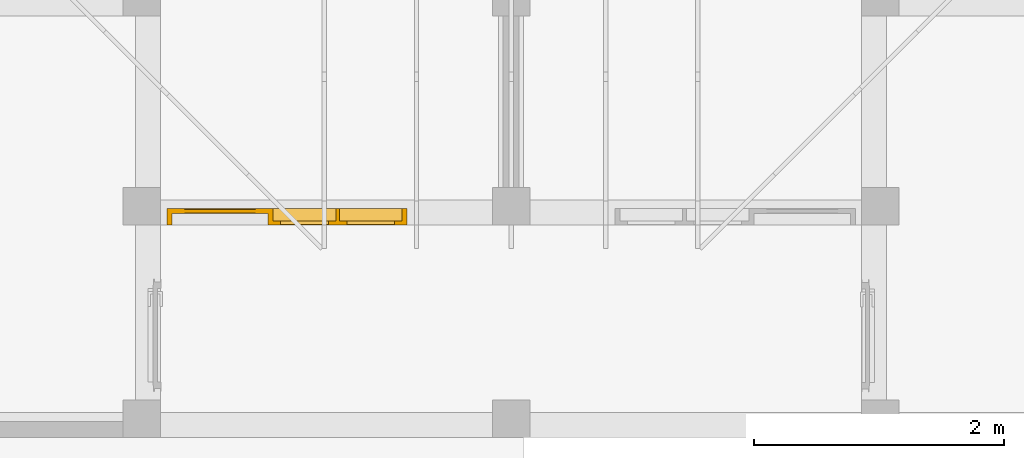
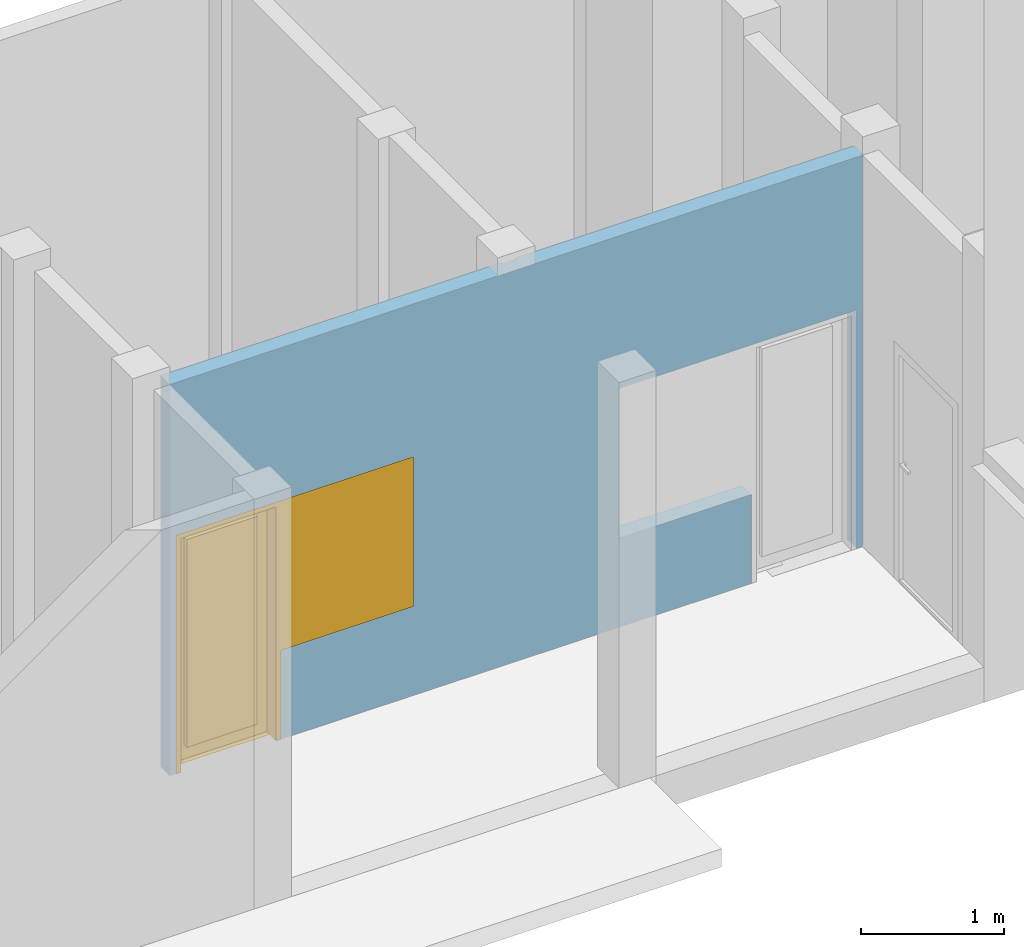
# One storey, part 6 of 10: 1 door, 2 openings, plus 1 element that does not belong to this part.
"""IFC4X3_ADD2 building model written with IfcOpenShell, lengths in millimetres."""

from ifc_helpers import new_model, entity, si_unit, converted_unit, frame, origin_with_axes, origin_2d_with_axis, place, context, subcontext, project, spatial, line, indexed_curve, outline, extrude, polygons, source, transform, mapped, material, layer, layer_set, layer_usage, type_object, type_shapes, element, fill, save


model = new_model("IFC4X3_ADD2")

# Units and contexts
model_context = context("Model", 3, precision=1e-05, world=origin_with_axes())
plan_context = context("Plan", 2, precision=1e-05, world=origin_2d_with_axis())
body_context = subcontext(model_context, "Body", "Model", "MODEL_VIEW")
ifc_project = project(units=[si_unit("VOLUMEUNIT", "CUBIC_METRE"), si_unit("LENGTHUNIT", "METRE", prefix="MILLI"), converted_unit("PLANEANGLEUNIT", "degree", entity("IfcReal", 0.0174532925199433), si_unit("PLANEANGLEUNIT", "RADIAN"), dimensions=[0, 0, 0, 0, 0, 0, 0]), si_unit("AREAUNIT", "SQUARE_METRE")], contexts=[model_context, plan_context])

# Site, building, storey
site_placement = place(None, origin_with_axes())
site = spatial("IfcSite", under=ifc_project, at=site_placement, Name="My Site")
building_placement = place(site_placement, origin_with_axes())
building = spatial("IfcBuilding", under=site, at=building_placement, Name="My Building")
storey_placement = place(building_placement, origin_with_axes())
storey = spatial("IfcBuildingStorey", under=building, at=storey_placement, Name="Lantai 1")

# Wall, openings, door
ifc_material_1 = material(Name="plester")
ifc_layer_1 = layer(ifc_material_1, 15.0000009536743, Priority=1)
ifc_material_2 = material(Name="brick", Category="Uncategorised")
ifc_layer_2 = layer(ifc_material_2, 100.0, Priority=4)
ifc_layer_3 = layer(ifc_material_1, 15.0000009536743)
ifc_layer_set = layer_set([ifc_layer_1, ifc_layer_2, ifc_layer_3])
ifc_layer_usage = layer_usage(ifc_layer_set, "AXIS2", "NEGATIVE", 0.0)
wall_type = type_object("IfcWallType", Name="WALL-130", PredefinedType="SOLIDWALL", material=ifc_layer_set)
wall_placement = place(storey_placement, frame((8520.00066568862, 1549.99983310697, 0.0), z_axis=(0.0, 0.0, 1.0), x_axis=(-0.999999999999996, 8.74227765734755e-08, 0.0)))
wall = element("IfcWall", 1, at=wall_placement, inside=storey, type_object=wall_type, material=ifc_layer_usage, Name="Wall", context=body_context, shape_type="SweptSolid", body=[
    extrude(outline(indexed_curve([(-4.53518506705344e-06, -130.000001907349), (-4.01189445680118e-06, -115.000000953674), (-15.0000049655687, -115.000000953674), (-15.0000014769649, -15.0000009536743), (-5.23290610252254e-07, -15.0000009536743), (0.0, 0.0), (5600.00058939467, 0.0), (5600.00058939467, -130.000001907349), (2850.00042381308, -130.000001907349), (2850.00042363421, -115.000000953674), (2735.00042268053, -115.000000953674), (2735.00042285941, -130.000001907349)], segments=[line(1, 2, 3, 4, 5, 6, 7, 8, 9, 10, 11, 12, 1)])), origin_with_axes(), (0.0, 0.0, 1.0), 3345.00026702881),
])
shared_shape_1 = source(origin_with_axes(), body_context, "Body", "SweptSolid", [
    extrude(outline(indexed_curve([(849.998352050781, 759.999755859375), (1919.99755859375, 759.999755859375), (1919.99755859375, 2039.99987792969), (0.0, 2039.99987792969), (0.0, 0.0), (849.998352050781, -3.23401396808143e-12), (849.998352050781, 759.999755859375)])), frame((0.0, -600.0, 0.0), z_axis=(0.0, -1.0, 0.0), x_axis=(1.0, 0.0, 0.0)), (0.0, 0.0, -1.0), 1200.0),
])
opening_1_placement = place(wall_placement, frame((50.0004100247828, -130.000110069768, 0.0), z_axis=(0.0, 0.0, 1.0), x_axis=(0.999999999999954, -3.01991590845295e-07, 0.0)))
element("IfcOpeningElement", 2, at=opening_1_placement, cuts=wall, Name="Opening", PredefinedType="OPENING", context=body_context, shape_type="MappedRepresentation", body=[
    mapped(shared_shape_1, transform((0.0, 0.0, 0.0), x_axis=(1.0, 0.0, 0.0), y_axis=(0.0, 1.0, 0.0), z_axis=(0.0, 0.0, 1.0), scale=1.0)),
])
shared_shape_2 = source(origin_with_axes(), body_context, "Body", "SweptSolid", [
    extrude(outline(indexed_curve([(850.000183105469, 0.0), (0.0, 0.0), (0.0, 2039.99987792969), (1920.0, 2039.99987792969), (1920.0, 759.999938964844), (850.000183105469, 759.999938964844), (850.000183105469, 0.0)])), frame((-9.53674259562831e-07, -600.0, 0.0), z_axis=(0.0, -1.0, 0.0), x_axis=(1.0, 0.0, 0.0)), (0.0, 0.0, -1.0), 1200.0),
])
opening_2_placement = place(wall_placement, frame((5549.99968340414, -0.000468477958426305, 0.0), z_axis=(0.0, 0.0, 1.0), x_axis=(-0.999999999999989, 1.50995802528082e-07, 0.0)))
opening_2 = element("IfcOpeningElement", 3, at=opening_2_placement, cuts=wall, Name="Opening", PredefinedType="OPENING", context=body_context, shape_type="MappedRepresentation", body=[
    mapped(shared_shape_2, transform((0.0, 0.0, 0.0), x_axis=(1.0, 0.0, 0.0), y_axis=(0.0, 1.0, 0.0), z_axis=(0.0, 0.0, 1.0), scale=1.0)),
])
door_type = type_object("IfcDoorType", Name="1", OperationType="NOTDEFINED", PredefinedType="DOOR")
shared_shape_3 = source(origin_with_axes(), body_context, "Body", "Tessellation", [
    polygons([(-0.000953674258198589, 0.0, 1999.99975585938), (-0.000953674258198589, 0.0, 0.0), (39.9992446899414, 0.0, 0.0), (39.9992446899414, 0.0, 1999.99975585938), (-0.000953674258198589, 0.0, 2039.99987792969), (39.9992446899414, 0.0, 2039.99987792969), (809.999633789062, 0.0, 1999.99975585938), (809.999633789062, 0.0, 2039.99987792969), (849.999633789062, 0.0, 1999.99975585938), (849.999633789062, 0.0, 2039.99987792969), (809.999633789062, 0.0, 760.000122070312), (809.999633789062, 0.0, 0.0), (849.999633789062, 0.0, 0.0), (849.999633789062, 0.0, 760.000122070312), (1349.99963378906, 0.0, 1999.99975585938), (1349.99963378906, 0.0, 2039.99987792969), (1379.99938964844, 0.0, 1999.99975585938), (1379.99938964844, 0.0, 2039.99987792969), (1349.99963378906, 0.0, 800.000061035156), (1379.99938964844, 0.0, 800.000061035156), (1879.99951171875, 0.0, 1999.99975585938), (1879.99951171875, 0.0, 2039.99987792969), (1919.99951171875, 0.0, 1999.99975585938), (1919.99951171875, 0.0, 2039.99987792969), (1879.99951171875, 0.0, 800.000061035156), (1919.99951171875, 0.0, 800.000061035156), (1879.99951171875, 0.0, 760.000122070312), (1919.99951171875, 0.0, 760.000122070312), (1349.99963378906, 0.0, 760.000122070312), (1379.99938964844, 0.0, 760.000122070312), (809.999633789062, 0.0, 800.000061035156), (849.999633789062, 0.0, 800.000061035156), (-0.000953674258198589, 129.999969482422, 0.0), (39.9992446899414, 129.999969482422, 1999.99975585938), (39.9992446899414, 129.999969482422, 0.0), (-0.000953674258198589, 129.999969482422, 1999.99975585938), (-0.000953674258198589, 129.999969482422, 2039.99987792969), (39.9992446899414, 129.999969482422, 2039.99987792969), (809.999633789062, 129.999969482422, 2039.99987792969), (809.999633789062, 129.999969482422, 1999.99975585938), (849.999633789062, 129.999969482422, 2039.99987792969), (849.999633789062, 129.999969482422, 1999.99975585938), (809.999633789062, 129.999969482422, 0.0), (809.999633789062, 129.999969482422, 760.000122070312), (849.999633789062, 129.999969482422, 760.000122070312), (849.999633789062, 129.999969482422, 0.0), (1349.99963378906, 129.999969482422, 2039.99987792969), (1349.99963378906, 129.999969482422, 1999.99975585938), (1379.99938964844, 129.999969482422, 2039.99987792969), (1379.99938964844, 129.999969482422, 1999.99975585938), (1349.99963378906, 129.999969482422, 800.000061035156), (1379.99938964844, 129.999969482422, 800.000061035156), (1879.99951171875, 129.999969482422, 2039.99987792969), (1879.99951171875, 129.999969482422, 1999.99975585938), (1919.99951171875, 129.999969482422, 2039.99987792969), (1919.99951171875, 129.999969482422, 1999.99975585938), (1879.99951171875, 129.999969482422, 800.000061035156), (1919.99951171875, 129.999969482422, 800.000061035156), (1879.99951171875, 129.999969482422, 760.000122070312), (1919.99951171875, 129.999969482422, 760.000122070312), (1349.99963378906, 129.999969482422, 760.000122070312), (1379.99938964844, 129.999969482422, 760.000122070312), (809.999633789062, 129.999969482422, 800.000061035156), (849.999633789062, 129.999969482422, 800.000061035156)], [[[1, 2, 3]], [[1, 3, 4]], [[5, 4, 6]], [[5, 1, 4]], [[6, 4, 7]], [[6, 7, 8]], [[8, 7, 9]], [[8, 9, 10]], [[11, 12, 13]], [[11, 13, 14]], [[10, 9, 15]], [[10, 15, 16]], [[16, 15, 17]], [[16, 17, 18]], [[15, 19, 20]], [[15, 20, 17]], [[18, 17, 21]], [[18, 21, 22]], [[22, 21, 23]], [[22, 23, 24]], [[21, 25, 26]], [[21, 26, 23]], [[25, 27, 28]], [[25, 28, 26]], [[19, 29, 30]], [[19, 30, 20]], [[31, 11, 14]], [[31, 14, 32]], [[7, 31, 32]], [[7, 32, 9]], [[14, 29, 19]], [[32, 14, 19]], [[20, 27, 25]], [[20, 30, 27]], [[33, 34, 35]], [[33, 36, 34]], [[36, 37, 38]], [[36, 38, 34]], [[34, 38, 39]], [[34, 39, 40]], [[40, 39, 41]], [[40, 41, 42]], [[43, 44, 45]], [[43, 45, 46]], [[42, 41, 47]], [[42, 47, 48]], [[48, 47, 49]], [[48, 49, 50]], [[51, 48, 50]], [[51, 50, 52]], [[50, 49, 53]], [[50, 53, 54]], [[54, 53, 55]], [[54, 55, 56]], [[57, 54, 56]], [[57, 56, 58]], [[59, 57, 58]], [[59, 58, 60]], [[61, 51, 52]], [[61, 52, 62]], [[44, 63, 64]], [[44, 64, 45]], [[63, 40, 42]], [[63, 42, 64]], [[45, 64, 51]], [[45, 51, 61]], [[62, 52, 57]], [[62, 57, 59]], [[19, 15, 48]], [[19, 48, 51]], [[17, 20, 52]], [[17, 52, 50]], [[41, 8, 10]], [[41, 39, 8]], [[50, 21, 17]], [[50, 54, 21]], [[43, 13, 12]], [[43, 46, 13]], [[12, 11, 44]], [[12, 44, 43]], [[4, 3, 35]], [[4, 35, 34]], [[53, 18, 22]], [[53, 49, 18]], [[31, 7, 40]], [[31, 40, 63]], [[2, 1, 36]], [[2, 36, 33]], [[24, 23, 56]], [[24, 56, 55]], [[14, 13, 46]], [[14, 46, 45]], [[11, 31, 63]], [[11, 63, 44]], [[33, 3, 2]], [[33, 35, 3]], [[55, 22, 24]], [[55, 53, 22]], [[42, 15, 9]], [[42, 48, 15]], [[9, 32, 64]], [[9, 64, 42]], [[38, 5, 6]], [[38, 37, 5]], [[47, 10, 16]], [[47, 41, 10]], [[25, 21, 54]], [[25, 54, 57]], [[45, 29, 14]], [[45, 61, 29]], [[1, 5, 37]], [[1, 37, 36]], [[23, 26, 58]], [[23, 58, 56]], [[51, 32, 19]], [[51, 64, 32]], [[61, 30, 29]], [[61, 62, 30]], [[49, 16, 18]], [[49, 47, 16]], [[62, 27, 30]], [[62, 59, 27]], [[34, 7, 4]], [[34, 40, 7]], [[59, 28, 27]], [[59, 60, 28]], [[57, 20, 25]], [[57, 52, 20]], [[39, 6, 8]], [[39, 38, 6]], [[26, 28, 60]], [[26, 60, 58]]]),
    polygons([(1350.00012207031, 0.0, 859.999938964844), (1350.00012207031, 30.0, 859.999938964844), (1350.00012207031, 30.0, 799.999938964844), (1350.00012207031, 0.0, 799.999938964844), (1290.00012207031, 0.0, 859.999938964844), (1350.00012207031, 0.0, 1939.99975585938), (1290.00012207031, 0.0, 1939.99975585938), (910.000244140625, 30.0, 1939.99975585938), (1290.00012207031, 30.0, 1939.99975585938), (910.000244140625, 0.0, 1939.99975585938), (910.000244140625, 0.0, 1999.99975585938), (1290.00012207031, 0.0, 1999.99975585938), (1290.00012207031, 30.0, 1999.99975585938), (1350.00012207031, 30.0, 1999.99975585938), (1350.00012207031, 0.0, 1999.99975585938), (1350.00012207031, 30.0, 1939.99975585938), (1290.00012207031, 30.0, 859.999938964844), (910.000244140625, 30.0, 799.999938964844), (1290.00012207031, 30.0, 799.999938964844), (910.000244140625, 30.0, 859.999938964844), (910.000244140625, 0.0, 859.999938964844), (850.000305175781, 0.0, 1939.99975585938), (850.000305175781, 0.0, 859.999938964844), (910.000244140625, 0.0, 799.999938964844), (1290.00012207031, 0.0, 799.999938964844), (850.000305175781, 30.0, 799.999938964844), (850.000305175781, 0.0, 799.999938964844), (850.000305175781, 30.0, 859.999938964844), (850.000305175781, 30.0, 1939.99975585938), (850.000305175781, 30.0, 1999.99975585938), (910.000244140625, 30.0, 1999.99975585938), (850.000305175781, 0.0, 1999.99975585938)], [[[6, 1, 2]], [[1, 3, 2]], [[1, 4, 3]], [[5, 4, 1]], [[7, 5, 1]], [[7, 1, 6]], [[5, 7, 9]], [[12, 7, 6]], [[8, 7, 10]], [[8, 9, 7]], [[11, 10, 7]], [[11, 7, 12]], [[13, 11, 12]], [[12, 6, 15]], [[14, 13, 12]], [[14, 12, 15]], [[15, 16, 14]], [[15, 6, 16]], [[9, 14, 16]], [[17, 9, 16]], [[17, 16, 2]], [[6, 2, 16]], [[5, 9, 17]], [[19, 17, 2]], [[18, 20, 17]], [[18, 17, 19]], [[17, 20, 21]], [[17, 21, 5]], [[10, 21, 20]], [[21, 25, 5]], [[22, 21, 10]], [[22, 23, 21]], [[23, 24, 21]], [[21, 24, 25]], [[18, 25, 24]], [[5, 25, 4]], [[19, 4, 25]], [[18, 19, 25]], [[23, 27, 24]], [[26, 18, 24]], [[26, 24, 27]], [[27, 28, 26]], [[27, 23, 28]], [[23, 29, 28]], [[28, 29, 8]], [[28, 8, 20]], [[26, 28, 20]], [[23, 22, 29]], [[22, 30, 29]], [[29, 30, 31]], [[29, 31, 8]], [[31, 32, 11]], [[31, 30, 32]], [[13, 31, 11]], [[8, 31, 13]], [[32, 10, 11]], [[32, 22, 10]], [[22, 32, 30]], [[26, 20, 18]], [[10, 20, 8]], [[19, 2, 3]], [[19, 3, 4]], [[9, 13, 14]], [[8, 13, 9]]]),
    polygons([(139.999267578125, 89.9999542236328, 120.0), (139.999267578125, 129.999938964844, 120.0), (139.999267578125, 129.999938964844, 1899.99963378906), (139.999267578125, 89.9999542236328, 1899.99963378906), (39.9992446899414, 89.9999542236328, 120.0), (709.9990234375, 89.9999542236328, 120.0), (39.9992446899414, 89.9999542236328, 0.0), (139.999267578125, 89.9999542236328, 0.0), (139.999267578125, 129.999938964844, 0.0), (709.9990234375, 129.999938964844, 0.0), (709.9990234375, 89.9999542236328, 0.0), (809.999206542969, 89.9999542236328, 120.0), (809.999206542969, 89.9999542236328, 0.0), (809.999206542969, 129.999938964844, 0.0), (709.9990234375, 129.999938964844, 120.0), (809.999206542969, 129.999938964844, 120.0), (809.999206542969, 129.999938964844, 1899.99963378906), (709.9990234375, 129.999938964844, 1899.99963378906), (139.999267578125, 129.999938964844, 1999.99975585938), (709.9990234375, 129.999938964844, 1999.99975585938), (709.9990234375, 89.9999542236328, 1899.99963378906), (709.9990234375, 89.9999542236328, 1999.99975585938), (809.999206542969, 89.9999542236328, 1999.99975585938), (809.999206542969, 89.9999542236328, 1899.99963378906), (809.999206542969, 129.999938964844, 1999.99975585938), (139.999267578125, 89.9999542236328, 1999.99975585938), (39.9992446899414, 89.9999542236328, 1899.99963378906), (39.9992446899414, 89.9999542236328, 1999.99975585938), (39.9992446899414, 129.999938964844, 1999.99975585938), (39.9992446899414, 129.999938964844, 1899.99963378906), (39.9992446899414, 129.999938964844, 120.0), (39.9992446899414, 129.999938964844, 0.0)], [[[2, 6, 1]], [[1, 3, 2]], [[1, 4, 3]], [[5, 4, 1]], [[7, 5, 1]], [[8, 1, 6]], [[7, 1, 8]], [[9, 7, 8]], [[8, 6, 11]], [[10, 9, 8]], [[10, 8, 11]], [[11, 12, 13]], [[11, 6, 12]], [[14, 11, 13]], [[14, 10, 11]], [[15, 10, 14]], [[13, 16, 14]], [[15, 14, 16]], [[13, 12, 16]], [[12, 17, 16]], [[18, 16, 17]], [[18, 15, 16]], [[19, 3, 18]], [[19, 18, 20]], [[20, 18, 17]], [[18, 3, 4]], [[18, 4, 21]], [[21, 15, 18]], [[4, 22, 21]], [[21, 22, 23]], [[21, 23, 24]], [[6, 21, 24]], [[21, 6, 15]], [[24, 25, 17]], [[24, 23, 25]], [[6, 24, 12]], [[12, 24, 17]], [[20, 17, 25]], [[20, 25, 23]], [[20, 23, 22]], [[19, 22, 26]], [[19, 20, 22]], [[4, 26, 22]], [[27, 28, 26]], [[27, 26, 4]], [[29, 26, 28]], [[29, 19, 26]], [[28, 30, 29]], [[29, 30, 3]], [[29, 3, 19]], [[28, 27, 30]], [[27, 31, 30]], [[30, 31, 2]], [[30, 2, 3]], [[31, 9, 2]], [[31, 32, 9]], [[5, 32, 31]], [[27, 5, 31]], [[9, 32, 7]], [[5, 7, 32]], [[5, 27, 4]], [[2, 15, 6]], [[2, 10, 15]], [[2, 9, 10]]]),
    polygons([(139.999267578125, 94.9999465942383, 120.0), (139.999267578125, 124.999946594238, 120.0), (139.999267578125, 124.999946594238, 1899.99963378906), (139.999267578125, 94.9999465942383, 1899.99963378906), (709.9990234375, 94.9999465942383, 120.0), (709.9990234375, 94.9999465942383, 1899.99963378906), (709.9990234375, 124.999946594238, 120.0), (709.9990234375, 124.999946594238, 1899.99963378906)], [[[2, 5, 1]], [[1, 3, 2]], [[1, 4, 3]], [[4, 1, 5]], [[4, 5, 6]], [[2, 7, 5]], [[6, 5, 7]], [[6, 7, 8]], [[2, 8, 7]], [[2, 3, 8]], [[8, 4, 6]], [[8, 3, 4]]]),
    polygons([(1290.00012207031, 4.99999475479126, 1939.99975585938), (910.000244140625, 0.0, 1939.99975585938), (910.000244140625, 4.99999475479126, 1939.99975585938), (1290.00012207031, 0.0, 1939.99975585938), (910.000244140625, 4.99999475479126, 859.999938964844), (1290.00012207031, 4.99999475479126, 859.999938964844), (1290.00012207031, 0.0, 859.999938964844), (910.000244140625, 0.0, 859.999938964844)], [[[1, 2, 4]], [[1, 3, 2]], [[5, 3, 1]], [[4, 6, 1]], [[5, 1, 6]], [[5, 6, 7]], [[4, 7, 6]], [[2, 8, 7]], [[2, 7, 4]], [[5, 7, 8]], [[8, 3, 5]], [[8, 2, 3]]]),
    polygons([(1879.99890136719, 0.0, 859.999938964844), (1879.99890136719, 30.0, 859.999938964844), (1879.99890136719, 30.0, 799.999938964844), (1879.99890136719, 0.0, 799.999938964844), (1819.99890136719, 0.0, 859.999938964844), (1879.99890136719, 0.0, 1939.99975585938), (1819.99890136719, 0.0, 1939.99975585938), (1439.99890136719, 30.0, 1939.99975585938), (1819.99890136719, 30.0, 1939.99975585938), (1439.99890136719, 0.0, 1939.99975585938), (1439.99890136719, 0.0, 1999.99975585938), (1819.99890136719, 0.0, 1999.99975585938), (1819.99890136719, 30.0, 1999.99975585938), (1879.99890136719, 30.0, 1999.99975585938), (1879.99890136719, 0.0, 1999.99975585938), (1879.99890136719, 30.0, 1939.99975585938), (1819.99890136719, 30.0, 859.999938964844), (1439.99890136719, 30.0, 799.999938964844), (1819.99890136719, 30.0, 799.999938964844), (1439.99890136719, 30.0, 859.999938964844), (1439.99890136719, 0.0, 859.999938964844), (1379.99890136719, 0.0, 1939.99975585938), (1379.99890136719, 0.0, 859.999938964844), (1439.99890136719, 0.0, 799.999938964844), (1819.99890136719, 0.0, 799.999938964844), (1379.99890136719, 30.0, 799.999938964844), (1379.99890136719, 0.0, 799.999938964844), (1379.99890136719, 30.0, 859.999938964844), (1379.99890136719, 30.0, 1939.99975585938), (1379.99890136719, 30.0, 1999.99975585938), (1439.99890136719, 30.0, 1999.99975585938), (1379.99890136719, 0.0, 1999.99975585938)], [[[6, 1, 2]], [[1, 3, 2]], [[1, 4, 3]], [[5, 4, 1]], [[7, 5, 1]], [[7, 1, 6]], [[5, 7, 9]], [[12, 7, 6]], [[8, 7, 10]], [[8, 9, 7]], [[11, 10, 7]], [[11, 7, 12]], [[13, 11, 12]], [[12, 6, 15]], [[14, 13, 12]], [[14, 12, 15]], [[15, 16, 14]], [[15, 6, 16]], [[9, 14, 16]], [[17, 9, 16]], [[17, 16, 2]], [[6, 2, 16]], [[5, 9, 17]], [[19, 17, 2]], [[18, 20, 17]], [[18, 17, 19]], [[17, 20, 21]], [[17, 21, 5]], [[10, 21, 20]], [[21, 25, 5]], [[22, 21, 10]], [[22, 23, 21]], [[23, 24, 21]], [[21, 24, 25]], [[18, 25, 24]], [[5, 25, 4]], [[19, 4, 25]], [[18, 19, 25]], [[23, 27, 24]], [[26, 18, 24]], [[26, 24, 27]], [[27, 28, 26]], [[27, 23, 28]], [[23, 29, 28]], [[28, 29, 8]], [[28, 8, 20]], [[26, 28, 20]], [[23, 22, 29]], [[22, 30, 29]], [[29, 30, 31]], [[29, 31, 8]], [[31, 32, 11]], [[31, 30, 32]], [[13, 31, 11]], [[8, 31, 13]], [[32, 10, 11]], [[32, 22, 10]], [[22, 32, 30]], [[26, 20, 18]], [[10, 20, 8]], [[19, 2, 3]], [[19, 3, 4]], [[9, 13, 14]], [[8, 13, 9]]]),
    polygons([(1819.99890136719, 4.99999475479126, 1939.99975585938), (1439.99890136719, 0.0, 1939.99975585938), (1439.99890136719, 4.99999475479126, 1939.99975585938), (1819.99890136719, 0.0, 1939.99975585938), (1439.99890136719, 4.99999475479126, 859.999938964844), (1819.99890136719, 4.99999475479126, 859.999938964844), (1819.99890136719, 0.0, 859.999938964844), (1439.99890136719, 0.0, 859.999938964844)], [[[1, 2, 4]], [[1, 3, 2]], [[5, 3, 1]], [[4, 6, 1]], [[5, 1, 6]], [[5, 6, 7]], [[4, 7, 6]], [[2, 8, 7]], [[2, 7, 4]], [[5, 7, 8]], [[8, 3, 5]], [[8, 2, 3]]]),
])
type_shapes(door_type, [shared_shape_3])
door_placement = place(opening_2_placement, frame((0.0, 4.44089209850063e-13, 0.0), z_axis=(0.0, 0.0, 1.0), x_axis=(1.0, 7.94093388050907e-23, 0.0)))
door = element("IfcDoor", 4, at=door_placement, inside=storey, type_object=door_type, Name="Door", context=body_context, shape_type="MappedRepresentation", body=[
    mapped(shared_shape_3, transform((0.0, 0.0, 0.0), x_axis=(1.0, 0.0, 0.0), y_axis=(0.0, 1.0, 0.0), z_axis=(0.0, 0.0, 1.0), scale=1.0)),
])
fill(opening_2, door)

save(model, "model.ifc")
